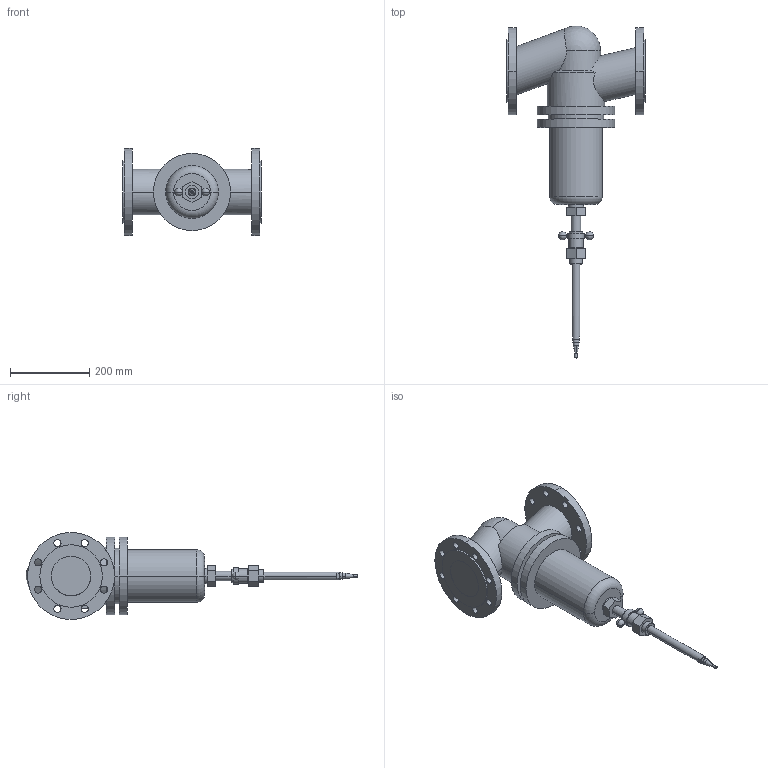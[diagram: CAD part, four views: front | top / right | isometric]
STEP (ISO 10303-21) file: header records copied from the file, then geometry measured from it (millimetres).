
FILE_DESCRIPTION(('CoCreate Modeling STEP Export'),'2;1');
FILE_NAME('c000004777.stp','2011-09-21T 9:20:04',(''),(''),'CoCreate Modeling STEP processor for AP214 (Solid Model)','CoCreate Modeling 17.0 01-Apr-2010 (C) Parametric Technology GmbH','');
FILE_SCHEMA(('AUTOMOTIVE_DESIGN { 1 0 10303 214 1 1 1 1 }'));
Length unit declared in the file: millimetre
Products named in the file (1): 1
Bounding box: 350 x 839.02 x 220 mm (x, y, z)
Volume: 10560100.2 mm3; surface area: 531866.5 mm2
Topology: 1 solids, 1 shells, 158 faces, 397 edges, 256 vertices
Faces by surface type: cylinder 86, plane 56, sphere 10, cone 4, torus 2
Entity records: 5722 total; most frequent: CARTESIAN_POINT 1089, ORIENTED_EDGE 774, DIRECTION 579, EDGE_CURVE 387, VERTEX_POINT 256, EDGE_LOOP 215, AXIS2_PLACEMENT_3D 207, VECTOR 165
